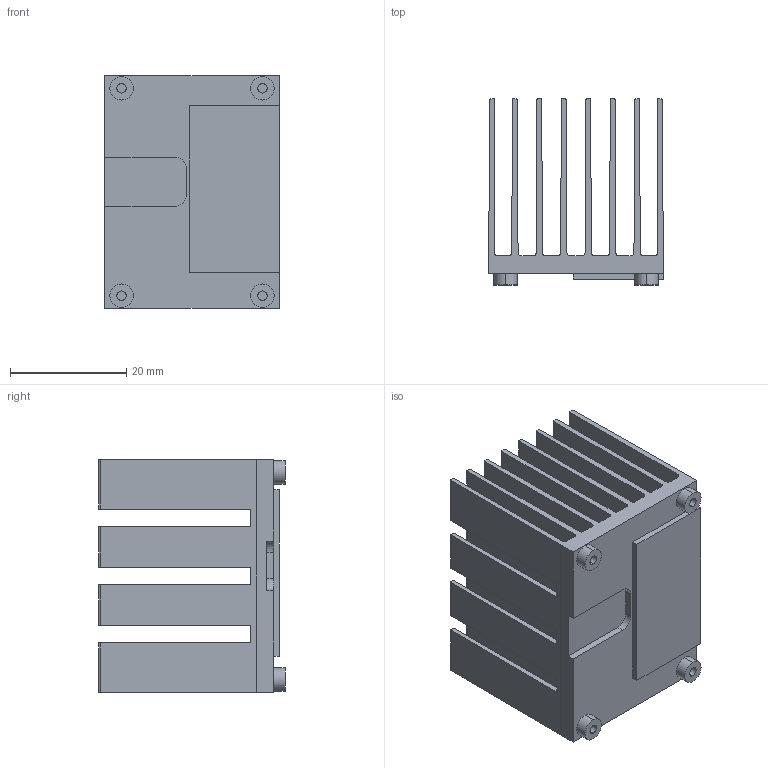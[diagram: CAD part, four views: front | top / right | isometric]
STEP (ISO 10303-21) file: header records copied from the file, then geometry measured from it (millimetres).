
FILE_DESCRIPTION((''),'2;1');
FILE_NAME('PCIE-HEATSINK-SY','2018-09-27T',('EmmaHsu'),(''),'PRO/ENGINEER BY PARAMETRIC TECHNOLOGY CORPORATION, 2016010','PRO/ENGINEER BY PARAMETRIC TECHNOLOGY CORPORATION, 2016010','');
FILE_SCHEMA(('AUTOMOTIVE_DESIGN { 1 0 10303 214 1 1 1 1 }'));
Length unit declared in the file: millimetre
Products named in the file (1): PCIE-HEATSINK-SY
Bounding box: 30 x 32 x 40 mm (x, y, z)
Volume: 10367 mm3; surface area: 17955.9 mm2
Topology: 1 solids, 1 shells, 244 faces, 702 edges, 468 vertices
Faces by surface type: plane 148, cylinder 96
Entity records: 9849 total; most frequent: CARTESIAN_POINT 1427, ORIENTED_EDGE 1404, DIRECTION 1399, EDGE_CURVE 702, VECTOR 510, LINE 510, VERTEX_POINT 468, AXIS2_PLACEMENT_3D 443
